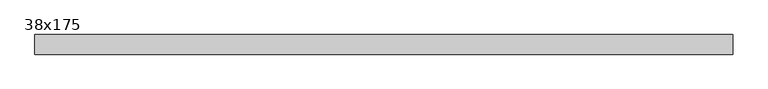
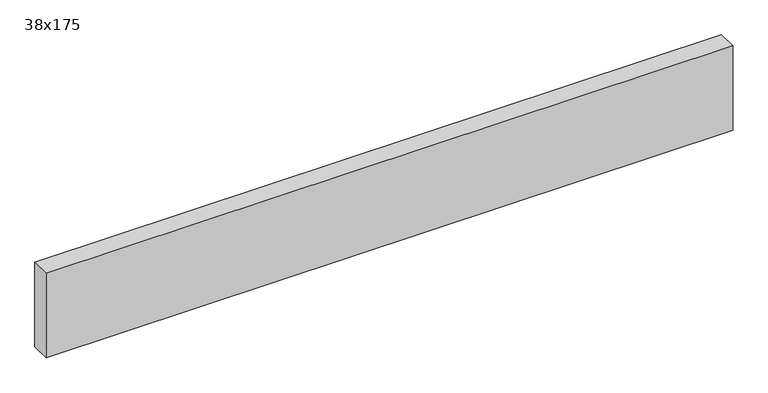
"""IFC4 building model written with IfcOpenShell, lengths in millimetres: beam geometry, Graded Timber : 38x175."""

from ifc_helpers import new_model, si_unit, frame, origin, place, context, project, spatial, polyline, outline, extrude, source, transform, mapped, element, save


def beam_38x175_81e2ca7b(model_context):
    return source(origin(), model_context, "Body", "SweptSolid", [
        extrude(outline(polyline([(675.4329041, 19.0), (675.4329041, -19.0), (-676.5684568, -19.0), (-676.5684568, 19.0), (675.4329041, 19.0)])), frame((0.0, 0.0, -87.5), z_axis=(0.0, 0.0, 1.0), x_axis=(1.0, 0.0, 0.0)), (0.0, 0.0, 1.0), 175.0),
    ])


if __name__ == "__main__":
    model = new_model("IFC4")
    model_context = context("Model", 3, world=origin())
    ifc_project = project(units=[si_unit("LENGTHUNIT", "METRE", prefix="MILLI")], contexts=[model_context])
    site = spatial("IfcSite", under=ifc_project)
    building = spatial("IfcBuilding", under=site)
    placement = place(None, origin())
    beam_38x175_shape = beam_38x175_81e2ca7b(model_context)
    element("IfcBeam", 1, ObjectType="Graded Timber : 38x175", at=placement, inside=building, context=model_context, shape_type="MappedRepresentation", body=[
        mapped(beam_38x175_shape, transform((0.0, 0.0, 0.0), x_axis=(1.0, 0.0, 0.0), y_axis=(0.0, 1.0, 0.0), z_axis=(0.0, 0.0, 1.0))),
    ])
    save(model, "model.ifc")
